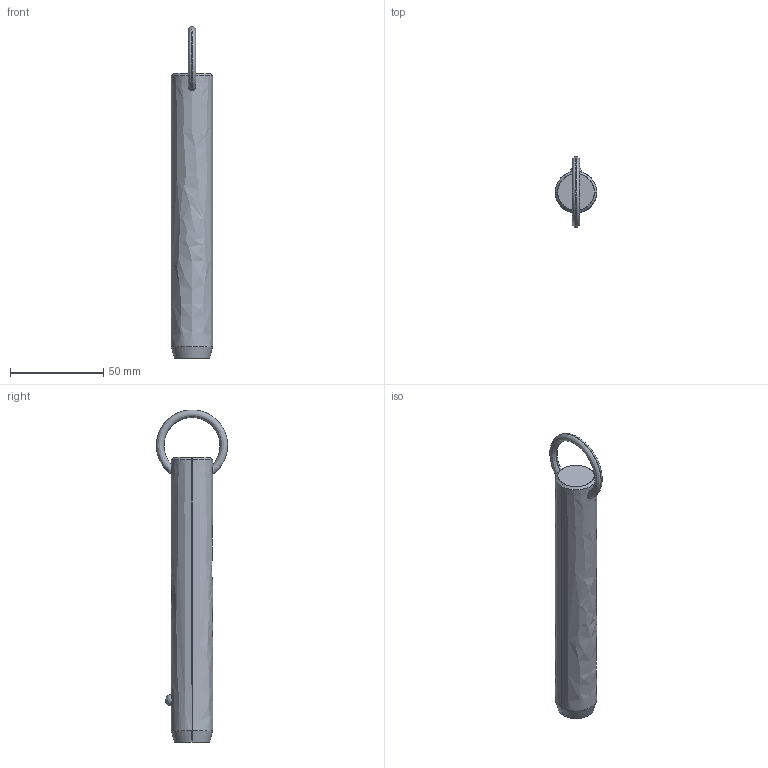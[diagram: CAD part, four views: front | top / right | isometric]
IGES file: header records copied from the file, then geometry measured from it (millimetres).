
Start section: SolidWorks IGES file using analytic representation for surfaces
Global section: file name: C:\Users\liam_\OneDrive\Documents\WORK\Work for WixRoyd\Job Files\J-00019 - Matt Davis CAD Checking\04. CAD Drawings\automotion20190605\P1250.2_v2\P1250.2_v2_20190729_IGES\P1250.087-450.igs; native system: SolidWorks 2017; preprocessor: SolidWorks 2017; author: liam_; date: 190730.001224; units: millimetre
Bounding box: 22.2 x 38.1 x 177.8 mm (x, y, z)
Surface area: 12272.6 mm2 (no closed solid volume)
Topology: 0 solids, 0 shells, 12 faces, 302 edges, 300 vertices
Faces by surface type: revolution 8, bspline 4
